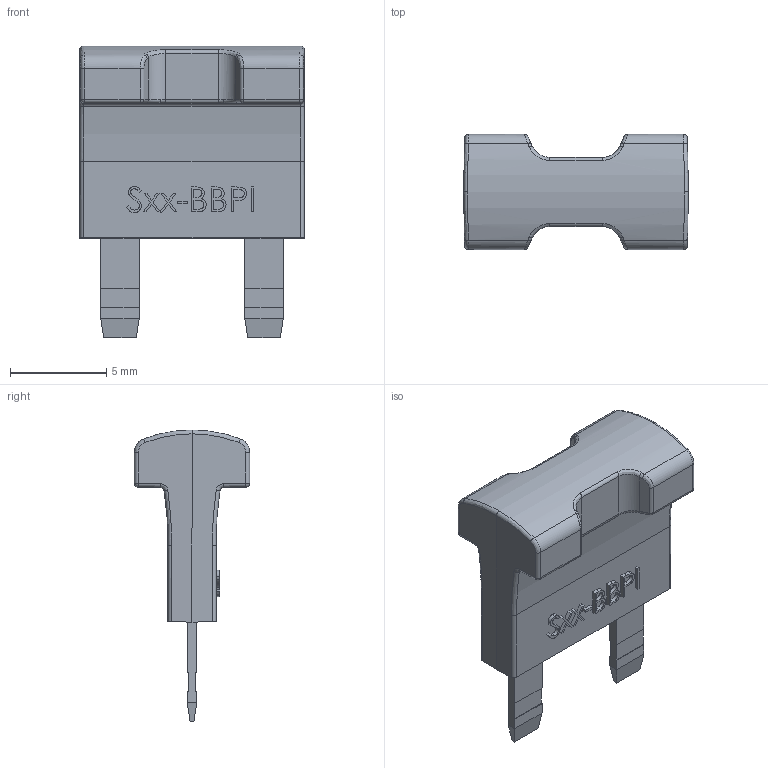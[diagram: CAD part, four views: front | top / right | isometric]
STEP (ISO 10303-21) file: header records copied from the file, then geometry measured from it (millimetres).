
FILE_DESCRIPTION (( 'STEP AP214' ), '1' );
FILE_NAME ('Sxx-BBPI.STEP', '2024-04-23T05:30:56', ( '' ), ( '' ), 'SwSTEP 2.0', 'SolidWorks 2022', '' );
FILE_SCHEMA (( 'AUTOMOTIVE_DESIGN' ));
Length unit declared in the file: millimetre
Products named in the file (1): Sxx-BBPI
Bounding box: 11.7 x 6 x 15.2 mm (x, y, z)
Volume: 382 mm3; surface area: 558 mm2
Topology: 1 solids, 2 shells, 267 faces, 666 edges, 416 vertices
Faces by surface type: plane 143, bspline 75, cylinder 41, sphere 8
Entity records: 13081 total; most frequent: CARTESIAN_POINT 4351, ORIENTED_EDGE 1332, DIRECTION 968, EDGE_CURVE 666, LINE 438, VECTOR 438, VERTEX_POINT 416, EDGE_LOOP 282
